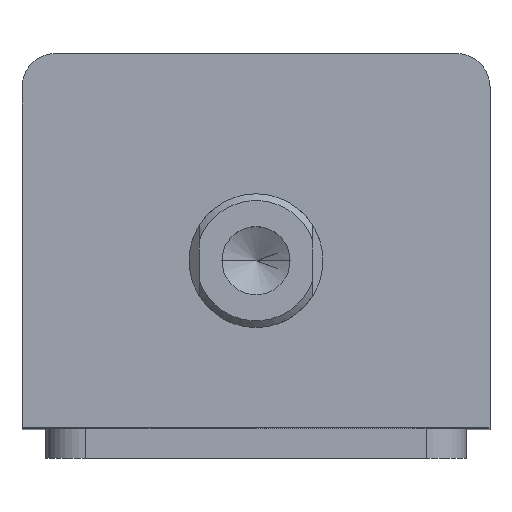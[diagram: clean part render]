
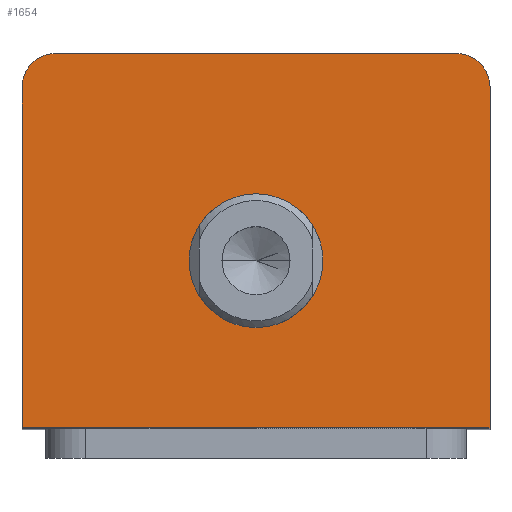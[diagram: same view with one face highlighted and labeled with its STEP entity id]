
A CAD part, top view. The second image highlights one B-rep face of the part: STEP entity #1654.
In plain terms, the highlighted planar face has unit normal (0, 0, 1).
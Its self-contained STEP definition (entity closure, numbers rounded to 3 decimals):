
#373 = CIRCLE ( 'NONE', #2356, 5. ) ;
#400 = CIRCLE ( 'NONE', #2349, 5. ) ;
#409 = LINE ( 'NONE', #1471, #412 ) ;
#412 = VECTOR ( 'NONE', #1469, 1000. ) ;
#435 = CIRCLE ( 'NONE', #2344, 10. ) ;
#532 = FACE_BOUND ( 'NONE', #2541, .T. ) ;
#540 = FACE_OUTER_BOUND ( 'NONE', #2556, .T. ) ;
#638 = CIRCLE ( 'NONE', #2247, 10. ) ;
#723 = EDGE_CURVE ( 'NONE', #1126, #1031, #2677, .T. ) ;
#731 = EDGE_CURVE ( 'NONE', #1063, #1126, #2689, .T. ) ;
#778 = EDGE_CURVE ( 'NONE', #1040, #1030, #2763, .T. ) ;
#794 = EDGE_CURVE ( 'NONE', #1031, #1040, #373, .T. ) ;
#810 = EDGE_CURVE ( 'NONE', #1030, #1077, #400, .T. ) ;
#817 = EDGE_CURVE ( 'NONE', #1077, #1063, #409, .T. ) ;
#830 = EDGE_CURVE ( 'NONE', #1092, #1007, #435, .T. ) ;
#928 = ORIENTED_EDGE ( 'NONE', *, *, #731, .T. ) ;
#929 = ORIENTED_EDGE ( 'NONE', *, *, #817, .T. ) ;
#930 = ORIENTED_EDGE ( 'NONE', *, *, #810, .T. ) ;
#931 = ORIENTED_EDGE ( 'NONE', *, *, #778, .T. ) ;
#932 = ORIENTED_EDGE ( 'NONE', *, *, #794, .T. ) ;
#933 = ORIENTED_EDGE ( 'NONE', *, *, #723, .T. ) ;
#934 = ORIENTED_EDGE ( 'NONE', *, *, #3045, .F. ) ;
#935 = ORIENTED_EDGE ( 'NONE', *, *, #830, .F. ) ;
#1007 = VERTEX_POINT ( 'NONE', #1279 ) ;
#1030 = VERTEX_POINT ( 'NONE', #1254 ) ;
#1031 = VERTEX_POINT ( 'NONE', #1252 ) ;
#1040 = VERTEX_POINT ( 'NONE', #1239 ) ;
#1063 = VERTEX_POINT ( 'NONE', #2091 ) ;
#1077 = VERTEX_POINT ( 'NONE', #2057 ) ;
#1092 = VERTEX_POINT ( 'NONE', #1979 ) ;
#1126 = VERTEX_POINT ( 'NONE', #1916 ) ;
#1239 = CARTESIAN_POINT ( 'NONE',  ( 30., 28., 154. ) ) ;
#1250 = DIRECTION ( 'NONE',  ( -1., 0., 0. ) ) ;
#1252 = CARTESIAN_POINT ( 'NONE',  ( 35., 23., 154. ) ) ;
#1253 = CARTESIAN_POINT ( 'NONE',  ( -35., 28., 154. ) ) ;
#1254 = CARTESIAN_POINT ( 'NONE',  ( -30., 28., 154. ) ) ;
#1279 = CARTESIAN_POINT ( 'NONE',  ( -10., -3., 154. ) ) ;
#1430 = DIRECTION ( 'NONE',  ( 1., 0., 0. ) ) ;
#1431 = DIRECTION ( 'NONE',  ( 0., 0., 1. ) ) ;
#1432 = CARTESIAN_POINT ( 'NONE',  ( 0., -3., 154. ) ) ;
#1469 = DIRECTION ( 'NONE',  ( 0., -1., 0. ) ) ;
#1471 = CARTESIAN_POINT ( 'NONE',  ( -35., 28., 154. ) ) ;
#1499 = DIRECTION ( 'NONE',  ( 1., 0., 0. ) ) ;
#1500 = DIRECTION ( 'NONE',  ( 0., 0., 1. ) ) ;
#1501 = CARTESIAN_POINT ( 'NONE',  ( -30., 23., 154. ) ) ;
#1553 = DIRECTION ( 'NONE',  ( 1., 0., 0. ) ) ;
#1554 = DIRECTION ( 'NONE',  ( 0., 0., 1. ) ) ;
#1555 = CARTESIAN_POINT ( 'NONE',  ( 30., 23., 154. ) ) ;
#1654 = ADVANCED_FACE ( 'NONE', ( #532, #540 ), #2092, .T. ) ;
#1716 = DIRECTION ( 'NONE',  ( 1., 0., 0. ) ) ;
#1718 = DIRECTION ( 'NONE',  ( 0., 0., 1. ) ) ;
#1719 = CARTESIAN_POINT ( 'NONE',  ( 0., -3., 154. ) ) ;
#1916 = CARTESIAN_POINT ( 'NONE',  ( 35., -28., 154. ) ) ;
#1979 = CARTESIAN_POINT ( 'NONE',  ( 10., -3., 154. ) ) ;
#2057 = CARTESIAN_POINT ( 'NONE',  ( -35., 23., 154. ) ) ;
#2085 = DIRECTION ( 'NONE',  ( 1., 0., 0. ) ) ;
#2088 = DIRECTION ( 'NONE',  ( 0., 0., 1. ) ) ;
#2091 = CARTESIAN_POINT ( 'NONE',  ( -35., -28., 154. ) ) ;
#2092 = PLANE ( 'NONE',  #2300 ) ;
#2096 = CARTESIAN_POINT ( 'NONE',  ( 0., 0., 154. ) ) ;
#2247 = AXIS2_PLACEMENT_3D ( 'NONE', #1719, #1718, #1716 ) ;
#2300 = AXIS2_PLACEMENT_3D ( 'NONE', #2096, #2088, #2085 ) ;
#2344 = AXIS2_PLACEMENT_3D ( 'NONE', #1432, #1431, #1430 ) ;
#2349 = AXIS2_PLACEMENT_3D ( 'NONE', #1501, #1500, #1499 ) ;
#2356 = AXIS2_PLACEMENT_3D ( 'NONE', #1555, #1554, #1553 ) ;
#2541 = EDGE_LOOP ( 'NONE', ( #935, #934 ) ) ;
#2556 = EDGE_LOOP ( 'NONE', ( #933, #932, #931, #930, #929, #928 ) ) ;
#2677 = LINE ( 'NONE', #2902, #2679 ) ;
#2679 = VECTOR ( 'NONE', #2901, 1000. ) ;
#2689 = LINE ( 'NONE', #2846, #2693 ) ;
#2693 = VECTOR ( 'NONE', #2840, 1000. ) ;
#2763 = LINE ( 'NONE', #1253, #2766 ) ;
#2766 = VECTOR ( 'NONE', #1250, 1000. ) ;
#2840 = DIRECTION ( 'NONE',  ( 1., 0., 0. ) ) ;
#2846 = CARTESIAN_POINT ( 'NONE',  ( -35., -28., 154. ) ) ;
#2901 = DIRECTION ( 'NONE',  ( 0., 1., 0. ) ) ;
#2902 = CARTESIAN_POINT ( 'NONE',  ( 35., 28., 154. ) ) ;
#3045 = EDGE_CURVE ( 'NONE', #1007, #1092, #638, .T. ) ;
